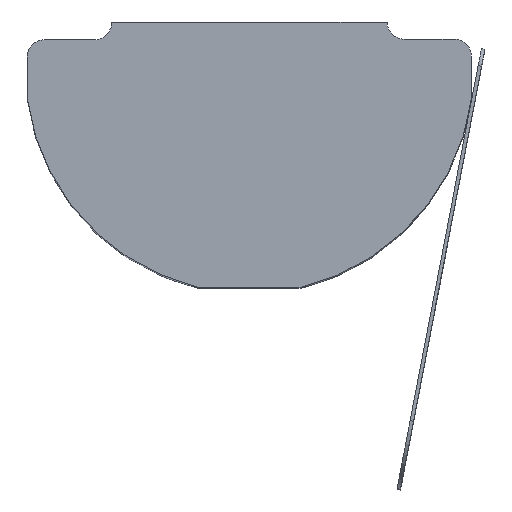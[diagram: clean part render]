
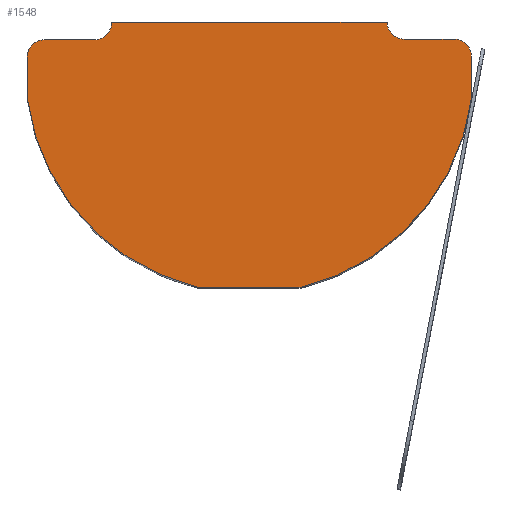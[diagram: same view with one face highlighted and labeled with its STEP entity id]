
A CAD part, top view. The second image highlights one B-rep face of the part: STEP entity #1548.
In plain terms, the highlighted planar face has unit normal (0, 0, 1).
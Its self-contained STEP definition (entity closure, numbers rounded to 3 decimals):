
#10 = EDGE_CURVE ( 'NONE', #1306, #291, #1471, .T. ) ;
#41 = AXIS2_PLACEMENT_3D ( 'NONE', #1032, #732, #1605 ) ;
#58 = DIRECTION ( 'NONE',  ( 0., 0., 1. ) ) ;
#59 = EDGE_CURVE ( 'NONE', #1020, #1407, #647, .T. ) ;
#73 = VERTEX_POINT ( 'NONE', #938 ) ;
#89 = DIRECTION ( 'NONE',  ( 0., -1., 0. ) ) ;
#95 = FACE_OUTER_BOUND ( 'NONE', #1359, .T. ) ;
#207 = CARTESIAN_POINT ( 'NONE',  ( -1.208, 0.212, 12.182 ) ) ;
#224 = PLANE ( 'NONE',  #1330 ) ;
#263 = CARTESIAN_POINT ( 'NONE',  ( -2.708, -6.122, 12.182 ) ) ;
#268 = DIRECTION ( 'NONE',  ( 1., 0., 0. ) ) ;
#271 = DIRECTION ( 'NONE',  ( 0., 0., 1. ) ) ;
#291 = VERTEX_POINT ( 'NONE', #301 ) ;
#296 = VERTEX_POINT ( 'NONE', #428 ) ;
#301 = CARTESIAN_POINT ( 'NONE',  ( 4.743, 1.078, 12.182 ) ) ;
#349 = ORIENTED_EDGE ( 'NONE', *, *, #1270, .T. ) ;
#359 = ORIENTED_EDGE ( 'NONE', *, *, #59, .T. ) ;
#364 = CIRCLE ( 'NONE', #948, 0.5 ) ;
#371 = EDGE_CURVE ( 'NONE', #291, #73, #1543, .T. ) ;
#391 = CARTESIAN_POINT ( 'NONE',  ( -7.162, 1.06, 12.182 ) ) ;
#403 = CARTESIAN_POINT ( 'NONE',  ( 3.292, 1.578, 12.182 ) ) ;
#405 = CARTESIAN_POINT ( 'NONE',  ( 2.792, 1.078, 12.182 ) ) ;
#409 = CARTESIAN_POINT ( 'NONE',  ( 0.292, -6.122, 12.182 ) ) ;
#428 = CARTESIAN_POINT ( 'NONE',  ( -7.662, 0.56, 12.182 ) ) ;
#431 = EDGE_CURVE ( 'NONE', #1113, #296, #766, .T. ) ;
#450 = VERTEX_POINT ( 'NONE', #1701 ) ;
#463 = ORIENTED_EDGE ( 'NONE', *, *, #799, .T. ) ;
#474 = VERTEX_POINT ( 'NONE', #1587 ) ;
#477 = CARTESIAN_POINT ( 'NONE',  ( -7.162, 0.56, 12.182 ) ) ;
#505 = VERTEX_POINT ( 'NONE', #409 ) ;
#514 = LINE ( 'NONE', #1638, #1354 ) ;
#521 = CARTESIAN_POINT ( 'NONE',  ( -5.208, 1.578, 12.182 ) ) ;
#531 = CIRCLE ( 'NONE', #41, 6.509 ) ;
#551 = VECTOR ( 'NONE', #1631, 1000. ) ;
#647 = LINE ( 'NONE', #521, #1261 ) ;
#648 = VECTOR ( 'NONE', #962, 1000. ) ;
#665 = LINE ( 'NONE', #806, #648 ) ;
#711 = CARTESIAN_POINT ( 'NONE',  ( -1.208, 0.212, 12.182 ) ) ;
#729 = DIRECTION ( 'NONE',  ( 1., 0., 0. ) ) ;
#732 = DIRECTION ( 'NONE',  ( 0., 0., 1. ) ) ;
#753 = DIRECTION ( 'NONE',  ( 0., 0., 1. ) ) ;
#756 = CARTESIAN_POINT ( 'NONE',  ( -5.208, 1.56, 12.182 ) ) ;
#765 = DIRECTION ( 'NONE',  ( 1., 0., 0. ) ) ;
#766 = CIRCLE ( 'NONE', #1592, 0.5 ) ;
#774 = VERTEX_POINT ( 'NONE', #1658 ) ;
#780 = ORIENTED_EDGE ( 'NONE', *, *, #969, .T. ) ;
#794 = CARTESIAN_POINT ( 'NONE',  ( -5.208, 1.578, 12.182 ) ) ;
#799 = EDGE_CURVE ( 'NONE', #73, #1511, #1477, .T. ) ;
#806 = CARTESIAN_POINT ( 'NONE',  ( -7.662, 1.06, 12.182 ) ) ;
#822 = DIRECTION ( 'NONE',  ( 0., 0., 1. ) ) ;
#851 = ORIENTED_EDGE ( 'NONE', *, *, #10, .T. ) ;
#919 = CIRCLE ( 'NONE', #1329, 6.509 ) ;
#931 = CARTESIAN_POINT ( 'NONE',  ( -7.662, -0.637, 12.182 ) ) ;
#938 = CARTESIAN_POINT ( 'NONE',  ( 3.292, 1.078, 12.182 ) ) ;
#948 = AXIS2_PLACEMENT_3D ( 'NONE', #1342, #1621, #1353 ) ;
#954 = ORIENTED_EDGE ( 'NONE', *, *, #1180, .T. ) ;
#962 = DIRECTION ( 'NONE',  ( -1., 0., 0. ) ) ;
#965 = AXIS2_PLACEMENT_3D ( 'NONE', #1662, #822, #1507 ) ;
#966 = DIRECTION ( 'NONE',  ( -1., 0., 0. ) ) ;
#969 = EDGE_CURVE ( 'NONE', #774, #1306, #514, .T. ) ;
#977 = ORIENTED_EDGE ( 'NONE', *, *, #1046, .T. ) ;
#1020 = VERTEX_POINT ( 'NONE', #1067 ) ;
#1029 = VERTEX_POINT ( 'NONE', #931 ) ;
#1032 = CARTESIAN_POINT ( 'NONE',  ( -1.208, 0.212, 12.182 ) ) ;
#1046 = EDGE_CURVE ( 'NONE', #296, #1029, #1347, .T. ) ;
#1067 = CARTESIAN_POINT ( 'NONE',  ( -5.208, 1.578, 12.182 ) ) ;
#1090 = ORIENTED_EDGE ( 'NONE', *, *, #431, .T. ) ;
#1101 = DIRECTION ( 'NONE',  ( 0., -1., 0. ) ) ;
#1113 = VERTEX_POINT ( 'NONE', #391 ) ;
#1180 = EDGE_CURVE ( 'NONE', #450, #1113, #665, .T. ) ;
#1206 = CARTESIAN_POINT ( 'NONE',  ( 5.243, 0.578, 12.182 ) ) ;
#1215 = AXIS2_PLACEMENT_3D ( 'NONE', #403, #1553, #268 ) ;
#1229 = CARTESIAN_POINT ( 'NONE',  ( 2.792, 1.578, 12.182 ) ) ;
#1261 = VECTOR ( 'NONE', #1101, 1000. ) ;
#1270 = EDGE_CURVE ( 'NONE', #1511, #1020, #1623, .T. ) ;
#1306 = VERTEX_POINT ( 'NONE', #1206 ) ;
#1329 = AXIS2_PLACEMENT_3D ( 'NONE', #207, #58, #1740 ) ;
#1330 = AXIS2_PLACEMENT_3D ( 'NONE', #711, #271, #1514 ) ;
#1342 = CARTESIAN_POINT ( 'NONE',  ( -5.708, 1.56, 12.182 ) ) ;
#1347 = LINE ( 'NONE', #1626, #1502 ) ;
#1353 = DIRECTION ( 'NONE',  ( 1., 0., 0. ) ) ;
#1354 = VECTOR ( 'NONE', #1745, 1000. ) ;
#1359 = EDGE_LOOP ( 'NONE', ( #954, #1090, #977, #1597, #1401, #1527, #780, #851, #1675, #463, #349, #359, #1615 ) ) ;
#1362 = EDGE_CURVE ( 'NONE', #1029, #474, #919, .T. ) ;
#1401 = ORIENTED_EDGE ( 'NONE', *, *, #1717, .T. ) ;
#1407 = VERTEX_POINT ( 'NONE', #756 ) ;
#1442 = EDGE_CURVE ( 'NONE', #505, #774, #531, .T. ) ;
#1471 = CIRCLE ( 'NONE', #965, 0.5 ) ;
#1477 = CIRCLE ( 'NONE', #1215, 0.5 ) ;
#1502 = VECTOR ( 'NONE', #89, 1000. ) ;
#1507 = DIRECTION ( 'NONE',  ( 1., 0., 0. ) ) ;
#1511 = VERTEX_POINT ( 'NONE', #1229 ) ;
#1514 = DIRECTION ( 'NONE',  ( 1., 0., 0. ) ) ;
#1521 = EDGE_CURVE ( 'NONE', #1407, #450, #364, .T. ) ;
#1525 = LINE ( 'NONE', #263, #1539 ) ;
#1527 = ORIENTED_EDGE ( 'NONE', *, *, #1442, .T. ) ;
#1539 = VECTOR ( 'NONE', #765, 1000. ) ;
#1543 = LINE ( 'NONE', #405, #1756 ) ;
#1548 = ADVANCED_FACE ( 'NONE', ( #95 ), #224, .T. ) ;
#1553 = DIRECTION ( 'NONE',  ( 0., 0., -1. ) ) ;
#1587 = CARTESIAN_POINT ( 'NONE',  ( -2.708, -6.122, 12.182 ) ) ;
#1592 = AXIS2_PLACEMENT_3D ( 'NONE', #477, #753, #729 ) ;
#1597 = ORIENTED_EDGE ( 'NONE', *, *, #1362, .T. ) ;
#1605 = DIRECTION ( 'NONE',  ( 1., 0., 0. ) ) ;
#1615 = ORIENTED_EDGE ( 'NONE', *, *, #1521, .T. ) ;
#1621 = DIRECTION ( 'NONE',  ( 0., 0., -1. ) ) ;
#1623 = LINE ( 'NONE', #794, #551 ) ;
#1626 = CARTESIAN_POINT ( 'NONE',  ( -7.662, -0.637, 12.182 ) ) ;
#1631 = DIRECTION ( 'NONE',  ( -1., 0., 0. ) ) ;
#1638 = CARTESIAN_POINT ( 'NONE',  ( 5.243, 1.078, 12.182 ) ) ;
#1658 = CARTESIAN_POINT ( 'NONE',  ( 5.243, -0.655, 12.182 ) ) ;
#1662 = CARTESIAN_POINT ( 'NONE',  ( 4.743, 0.578, 12.182 ) ) ;
#1675 = ORIENTED_EDGE ( 'NONE', *, *, #371, .T. ) ;
#1701 = CARTESIAN_POINT ( 'NONE',  ( -5.708, 1.06, 12.182 ) ) ;
#1717 = EDGE_CURVE ( 'NONE', #474, #505, #1525, .T. ) ;
#1740 = DIRECTION ( 'NONE',  ( 1., 0., 0. ) ) ;
#1745 = DIRECTION ( 'NONE',  ( 0., 1., 0. ) ) ;
#1756 = VECTOR ( 'NONE', #966, 1000. ) ;
